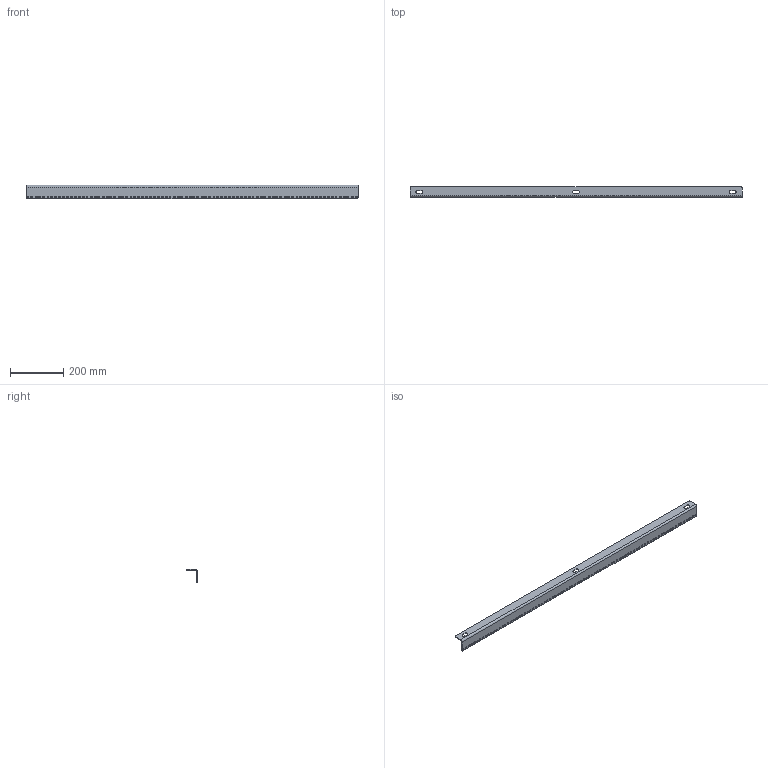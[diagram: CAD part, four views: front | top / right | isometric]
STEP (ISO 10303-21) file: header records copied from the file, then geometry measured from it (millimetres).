
FILE_DESCRIPTION((''),'2;1');
FILE_NAME('RACK-ANGLE','2010-09-01T',('dougp'),(''),'PRO/ENGINEER BY PARAMETRIC TECHNOLOGY CORPORATION, 2009230','PRO/ENGINEER BY PARAMETRIC TECHNOLOGY CORPORATION, 2009230','');
FILE_SCHEMA(('AUTOMOTIVE_DESIGN { 1 0 10303 214 1 1 1 1 }'));
Length unit declared in the file: inch
Products named in the file (1): RACK-ANGLE
Bounding box: 1244.6 x 38.1 x 50.01 mm (x, y, z)
Volume: 314429 mm3; surface area: 213062 mm2
Topology: 1 solids, 1 shells, 198 faces, 580 edges, 384 vertices
Faces by surface type: cylinder 180, plane 18
Entity records: 7163 total; most frequent: DIRECTION 1336, CARTESIAN_POINT 1163, ORIENTED_EDGE 1160, EDGE_CURVE 580, AXIS2_PLACEMENT_3D 558, VERTEX_POINT 384, EDGE_LOOP 372, CIRCLE 360
